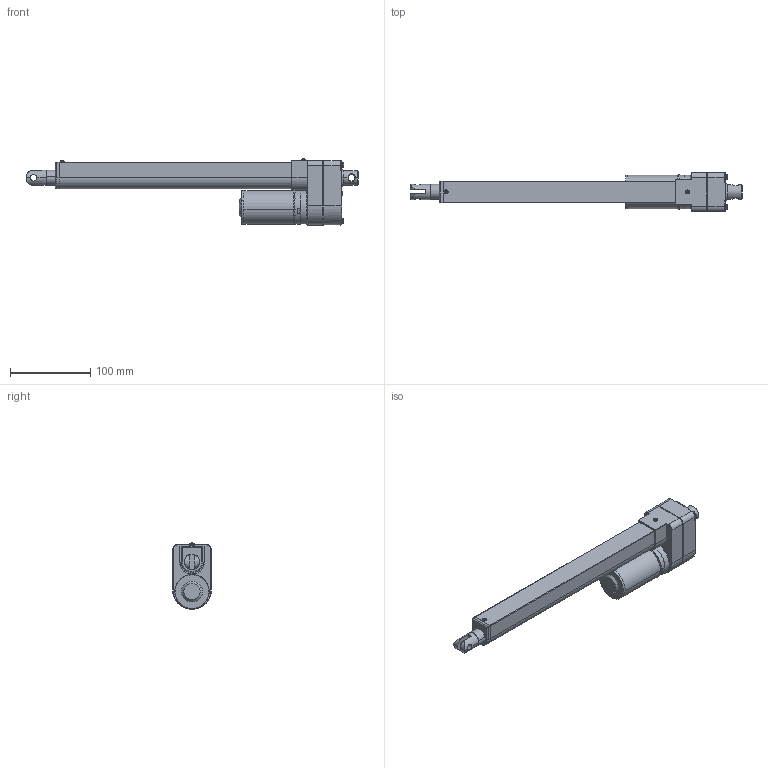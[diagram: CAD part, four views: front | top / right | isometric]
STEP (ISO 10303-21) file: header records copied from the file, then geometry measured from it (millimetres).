
FILE_DESCRIPTION (( 'STEP AP203' ), '1' );
FILE_NAME ('LAS2組合圖_Stroke=250.STEP', '2011-05-16T07:57:06', ( 'MH0164' ), ( '' ), 'SwSTEP 2.0', 'SolidWorks 2009', '' );
FILE_SCHEMA (( 'CONFIG_CONTROL_DESIGN' ));
Length unit declared in the file: millimetre
Products named in the file (1): LAS2組合圖_Stroke=250
Bounding box: 413.4 x 48 x 82.79 mm (x, y, z)
Surface area: 98224.4 mm2 (no closed solid volume)
Topology: 0 solids, 29 shells, 373 faces, 1446 edges, 1044 vertices
Faces by surface type: plane 151, cylinder 98, torus 73, bspline 30, cone 13, sphere 8
Entity records: 18518 total; most frequent: CARTESIAN_POINT 6955, DIRECTION 2282, ORIENTED_EDGE 2180, EDGE_CURVE 1430, VERTEX_POINT 1042, AXIS2_PLACEMENT_3D 794, VECTOR 694, LINE 694
